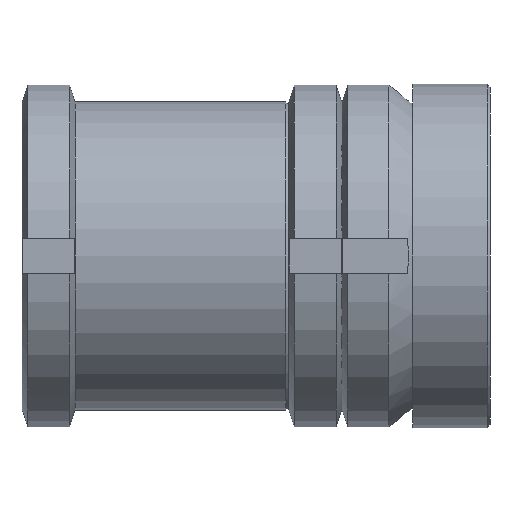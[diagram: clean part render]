
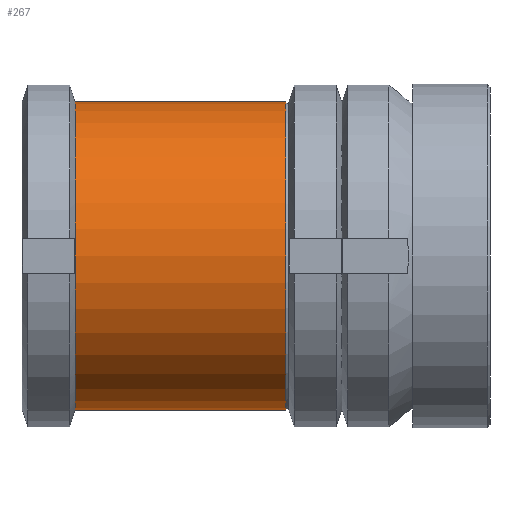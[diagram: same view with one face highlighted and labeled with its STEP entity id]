
A CAD part, front view. The second image highlights one B-rep face of the part: STEP entity #267.
In plain terms, the highlighted cylindrical face has radius 26 mm (diameter 52 mm), a full revolution.
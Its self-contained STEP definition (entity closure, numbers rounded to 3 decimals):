
#267 = ADVANCED_FACE( '', ( #386, #387 ), #388, .T. );
#386 = FACE_OUTER_BOUND( '', #594, .T. );
#387 = FACE_OUTER_BOUND( '', #595, .T. );
#388 = CYLINDRICAL_SURFACE( '', #596, 26. );
#594 = EDGE_LOOP( '', ( #927 ) );
#595 = EDGE_LOOP( '', ( #928 ) );
#596 = AXIS2_PLACEMENT_3D( '', #929, #930, #931 );
#927 = ORIENTED_EDGE( '', *, *, #1375, .F. );
#928 = ORIENTED_EDGE( '', *, *, #1409, .T. );
#929 = CARTESIAN_POINT( '', ( 0., 0., 0. ) );
#930 = DIRECTION( '', ( 0., 1., 0. ) );
#931 = DIRECTION( '', ( 0., 0., -1. ) );
#1375 = EDGE_CURVE( '', #1571, #1571, #1572, .T. );
#1409 = EDGE_CURVE( '', #1624, #1624, #1625, .T. );
#1571 = VERTEX_POINT( '', #1947 );
#1572 = CIRCLE( '', #1948, 26. );
#1624 = VERTEX_POINT( '', #2068 );
#1625 = CIRCLE( '', #2069, 26. );
#1947 = CARTESIAN_POINT( '', ( 0., 9., -26. ) );
#1948 = AXIS2_PLACEMENT_3D( '', #2512, #2513, #2514 );
#2068 = CARTESIAN_POINT( '', ( 0., 44.5, -26. ) );
#2069 = AXIS2_PLACEMENT_3D( '', #2553, #2554, #2555 );
#2512 = CARTESIAN_POINT( '', ( 0., 9., 0. ) );
#2513 = DIRECTION( '', ( 0., -1., 0. ) );
#2514 = DIRECTION( '', ( 0., 0., -1. ) );
#2553 = CARTESIAN_POINT( '', ( 0., 44.5, 0. ) );
#2554 = DIRECTION( '', ( 0., -1., 0. ) );
#2555 = DIRECTION( '', ( 0., 0., -1. ) );
